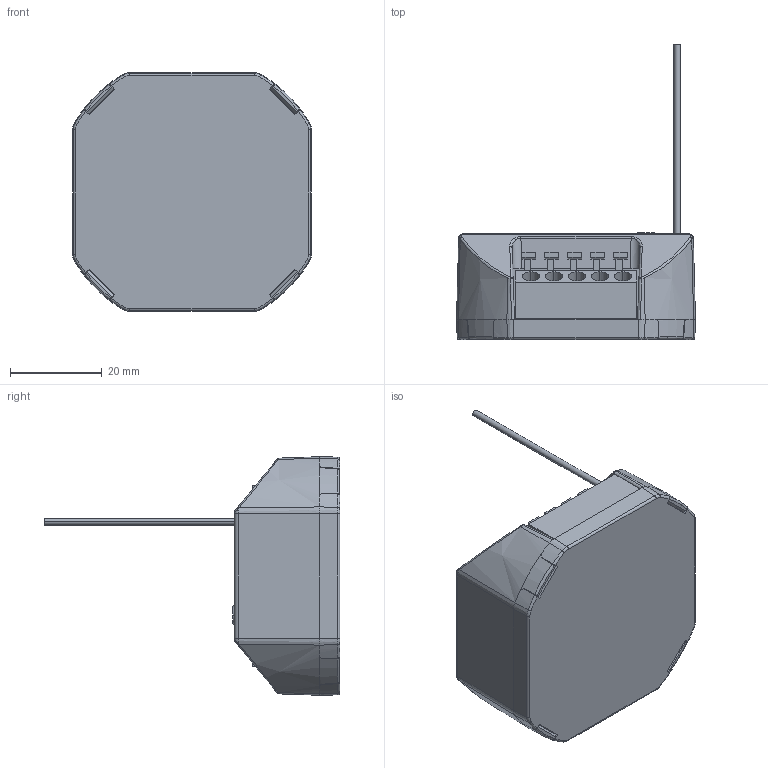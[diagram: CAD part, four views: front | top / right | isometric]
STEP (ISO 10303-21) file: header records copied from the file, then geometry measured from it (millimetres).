
FILE_DESCRIPTION(('Creo Elements/Direct Modeling STEP Export'),'2;1');
FILE_NAME('SL-PPREC01MONO.stp','2024-04-22T11:29:01',(''),(''),'Creo Elements/Direct Modeling STEP processor for AP214 (Solid Model)','Creo Elements/Direct Modeling 20.0 12-Nov-2016 (C) Parametric Technology GmbH','');
FILE_SCHEMA(('AUTOMOTIVE_DESIGN { 1 0 10303 214 1 1 1 1 }'));
Length unit declared in the file: millimetre
Products named in the file (2): SL-PPREC01MONO
Assembly tree (1 placements, depth 2):
  SL-PPREC01MONO
    SL-PPREC01MONO
Bounding box: 52 x 64.29 x 52 mm (x, y, z)
Volume: 37165.8 mm3; surface area: 22789.4 mm2
Topology: 1 solids, 2 shells, 1027 faces, 2741 edges, 1745 vertices
Faces by surface type: plane 619, cylinder 157, cone 128, bspline 64, torus 55, sphere 4
Entity records: 34606 total; most frequent: CARTESIAN_POINT 10124, ORIENTED_EDGE 5482, DIRECTION 4561, EDGE_CURVE 2741, VERTEX_POINT 1745, VECTOR 1735, LINE 1735, AXIS2_PLACEMENT_3D 1413
